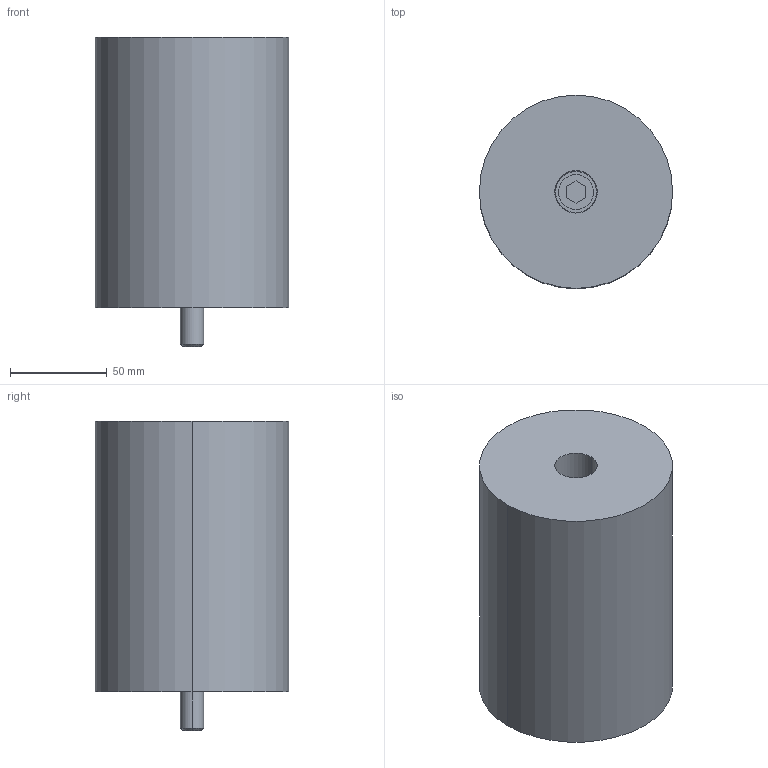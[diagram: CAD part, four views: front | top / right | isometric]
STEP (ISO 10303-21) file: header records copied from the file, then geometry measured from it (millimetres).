
FILE_DESCRIPTION(/* description */ (''),/* implementation_level */ '2;1');
FILE_NAME(/* name */ '3d_esbt100-140_07012_r00.stp',/* time_stamp */ '2011-01-10T14:15:40+09:00',/* author */ ('MISUMI'),/* organization */ (''),/* preprocessor_version */ 'ST-DEVELOPER v11',/* originating_system */ 'UGS - NX 5.0',/* authorisation */ '');
FILE_SCHEMA (('CONFIG_CONTROL_DESIGN'));
Length unit declared in the file: millimetre
Products named in the file (1): 3d_esbt100-140_07012_r00
Bounding box: 100 x 100 x 160 mm (x, y, z)
Volume: 1065976.1 mm3; surface area: 76749.4 mm2
Topology: 3 solids, 3 shells, 35 faces, 72 edges, 46 vertices
Faces by surface type: plane 15, cylinder 14, cone 6
Entity records: 1022 total; most frequent: DIRECTION 178, CARTESIAN_POINT 154, ORIENTED_EDGE 144, EDGE_CURVE 72, AXIS2_PLACEMENT_3D 70, VERTEX_POINT 46, EDGE_LOOP 42, LINE 38
